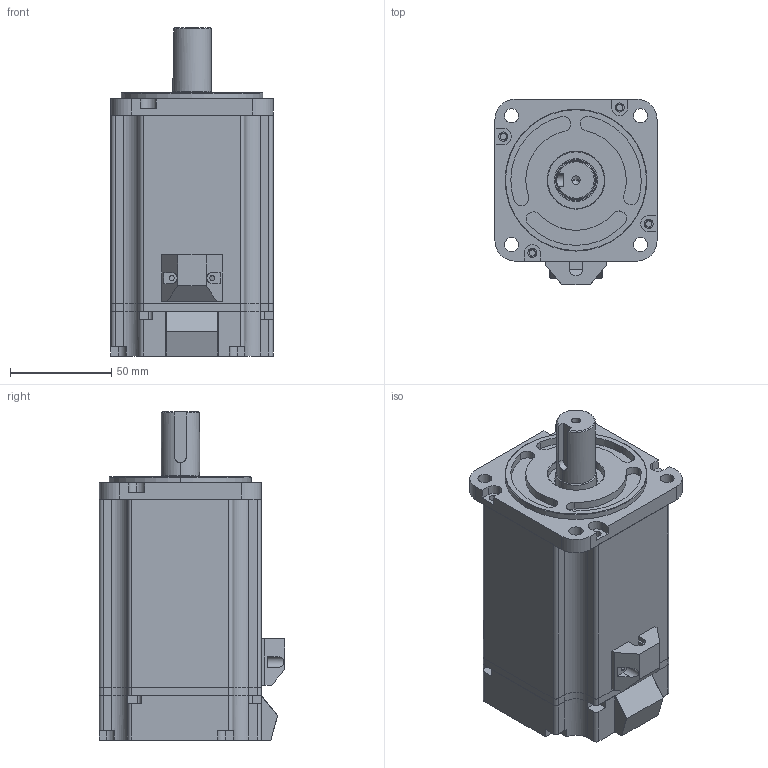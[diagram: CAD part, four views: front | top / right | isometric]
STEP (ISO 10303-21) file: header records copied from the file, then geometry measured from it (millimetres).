
FILE_DESCRIPTION (( 'STEP AP214' ), '1' );
FILE_NAME ('RSNA-M08J3230A .STEP', '2021-11-30T02:44:50', ( '' ), ( '' ), 'SwSTEP 2.0', 'SolidWorks 2020', '' );
FILE_SCHEMA (( 'AUTOMOTIVE_DESIGN' ));
Length unit declared in the file: millimetre
Products named in the file (7): 86等謂揤盄裔; S80-H73-001; RSNA-M08J3230A ; 80侜督呿蹋綴欶; 80SF750-K1950-002; S80DG-A-001; S80DG-B-001
Assembly tree (6 placements, depth 2):
  RSNA-M08J3230A 
    80SF750-K1950-002
    S80DG-A-001
    S80DG-B-001
    S80-H73-001
    80侜督呿蹋綴欶
    86等謂揤盄裔
Bounding box: 80 x 91.55 x 162 mm (x, y, z)
Volume: 247034.5 mm3; surface area: 133772.5 mm2
Topology: 6 solids, 6 shells, 656 faces, 1674 edges, 1042 vertices
Faces by surface type: cylinder 286, plane 221, torus 60, bspline 48, cone 41
Entity records: 22159 total; most frequent: CARTESIAN_POINT 5695, DIRECTION 3488, ORIENTED_EDGE 3304, EDGE_CURVE 1652, AXIS2_PLACEMENT_3D 1349, VERTEX_POINT 1042, LINE 790, VECTOR 790
